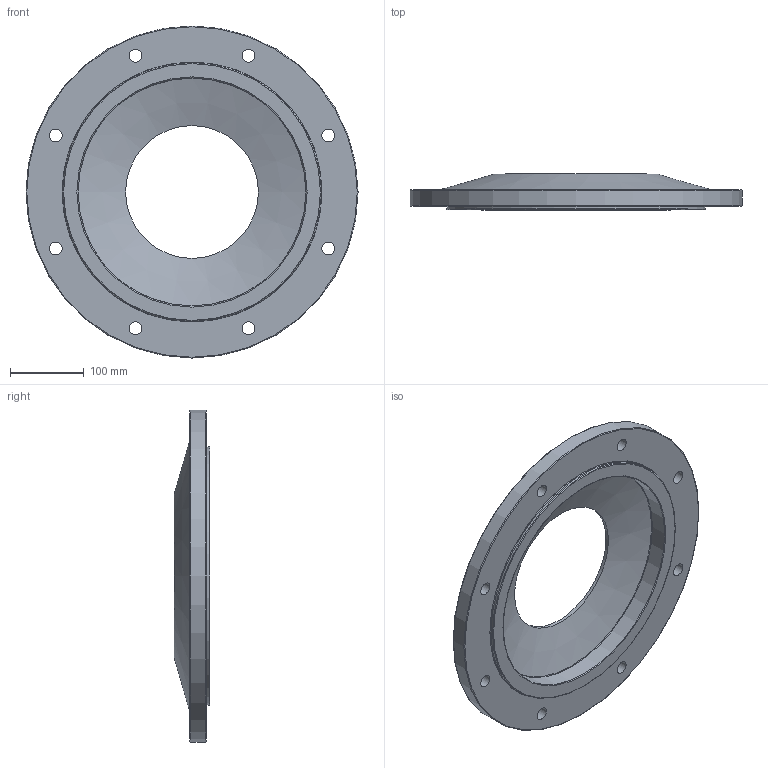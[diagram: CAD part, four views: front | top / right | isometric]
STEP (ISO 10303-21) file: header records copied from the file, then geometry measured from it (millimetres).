
FILE_DESCRIPTION((''),'2;1');
FILE_NAME('C:\Users\oem\Desktop\PAWEŁ\12 PRYWATNE\DualSystem\001 Modele\DKAB100_\DK_100_STEP\AF_F_100.stp','2011-12-13T13:16:32',('oem'),(''),'Autodesk Inventor 2009','Autodesk Inventor 2009','');
FILE_SCHEMA(('AUTOMOTIVE_DESIGN { 1 0 10303 214 1 1 1 1 }'));
Length unit declared in the file: millimetre
Products named in the file (1): AF_F_100
Bounding box: 450 x 48.5 x 450 mm (x, y, z)
Volume: 2518550.2 mm3; surface area: 338816.3 mm2
Topology: 1 solids, 1 shells, 25 faces, 62 edges, 41 vertices
Faces by surface type: bspline 11, plane 4, torus 4, cylinder 4, cone 2
Full cylindrical faces by diameter (mm): 180 x1, 310 x1, 350 x1, 450 x1
Entity records: 852 total; most frequent: CARTESIAN_POINT 342, DIRECTION 96, ORIENTED_EDGE 66, EDGE_LOOP 66, AXIS2_PLACEMENT_3D 48, FACE_BOUND 41, VERTEX_POINT 33, CIRCLE 33
